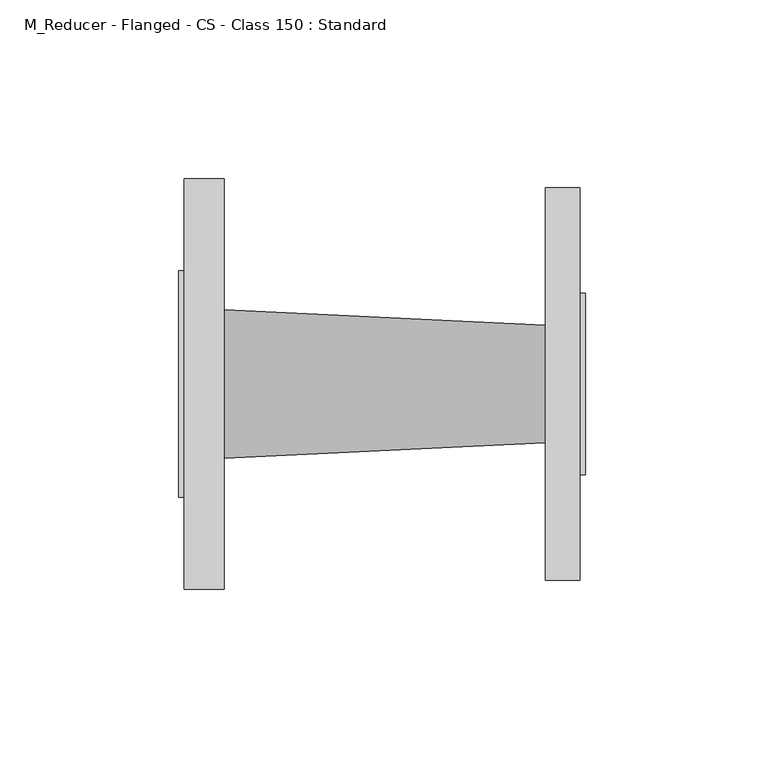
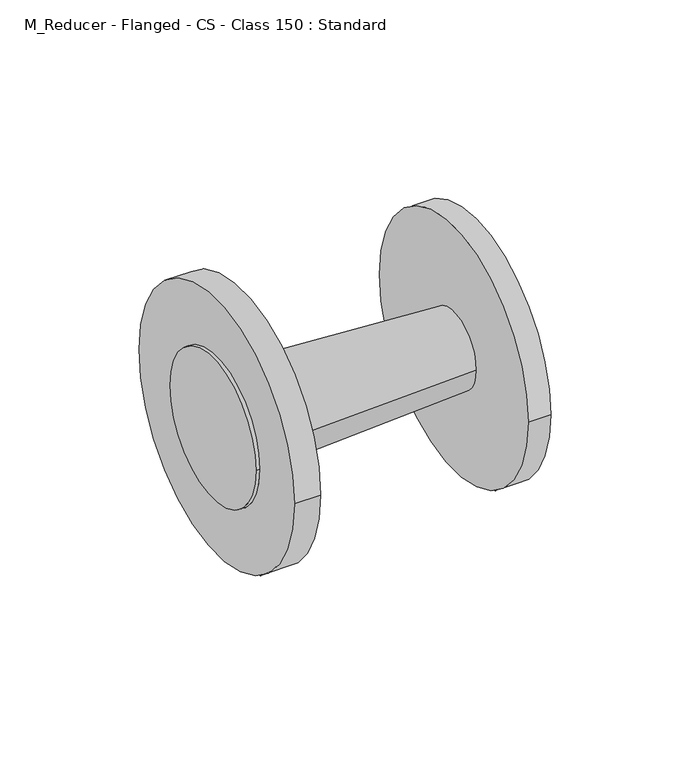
"""IFC4 building model written with IfcOpenShell, lengths in millimetres: pipe fitting geometry, M_Reducer - Flanged - CS - Class 150 : Standard."""

from ifc_helpers import new_model, si_unit, frame, origin, place, context, project, spatial, polyline, circle_curve, source, transform, mapped, element, save
from ifc_brep_helpers import plane_surface, cylinder_surface, revolved_surface, advanced_brep


def m_reducer_flanged_cs_class_150_standard_b6b67c23(model_context):
    return source(origin(), model_context, "Body", "AdvancedBrep", [
        advanced_brep(
        [(12.7875, -57.5, 0.0), (12.7875, 57.5, 0.0), (12.7875, 20.8, 0.0), (12.7875, -20.8, 0.0), (1.5875, -57.5, 0.0), (1.5875, 57.5, 0.0), (1.5875, -31.75, 0.0), (1.5875, 31.75, 0.0), (102.8125, 16.5, 0.0), (102.8125, -16.5, 0.0), (112.4125, -55.0, 0.0), (112.4125, 55.0, 0.0), (112.4125, 25.4, 0.0), (112.4125, -25.4, 0.0), (102.8125, -55.0, 0.0), (102.8125, 55.0, 0.0), (0.0, -31.75, 0.0), (0.0, 31.75, 0.0), (114.0, -25.4, 0.0), (114.0, 25.4, 0.0)],
        [
            (0, 1, circle_curve(frame((12.7875, 0.0, 0.0), z_axis=(1.0, 0.0, 0.0), x_axis=(0.0, 1.0, 0.0)), 57.5)),
            (1, 0, circle_curve(frame((12.7875, 0.0, 0.0), z_axis=(1.0, 0.0, 0.0), x_axis=(0.0, 1.0, 0.0)), 57.5)),
            (2, 3, circle_curve(frame((12.7875, 0.0, 0.0), z_axis=(-1.0, 0.0, 0.0), x_axis=(0.0, -1.0, 0.0)), 20.8)),
            (3, 2, circle_curve(frame((12.7875, 0.0, 0.0), z_axis=(-1.0, 0.0, 0.0), x_axis=(0.0, 1.0, 0.0)), 20.8)),
            (4, 5, circle_curve(frame((1.5875, 0.0, 0.0), z_axis=(-1.0, 0.0, 0.0), x_axis=(0.0, 1.0, 0.0)), 57.5)),
            (5, 4, circle_curve(frame((1.5875, 0.0, 0.0), z_axis=(-1.0, 0.0, 0.0), x_axis=(0.0, 1.0, 0.0)), 57.5)),
            (6, 7, circle_curve(frame((1.5875, 0.0, 0.0), z_axis=(1.0, 0.0, 0.0), x_axis=(0.0, 1.0, 0.0)), 31.75)),
            (7, 6, circle_curve(frame((1.5875, 0.0, 0.0), z_axis=(1.0, 0.0, 0.0), x_axis=(0.0, 1.0, 0.0)), 31.75)),
            (0, 4),
            (5, 1),
            (2, 8),
            (8, 9, circle_curve(frame((102.8125, 0.0, 0.0), z_axis=(-1.0, 0.0, 0.0), x_axis=(0.0, -1.0, 0.0)), 16.5)),
            (9, 3),
            (9, 8, circle_curve(frame((102.8125, 0.0, 0.0), z_axis=(-1.0, 0.0, 0.0), x_axis=(0.0, 1.0, 0.0)), 16.5)),
            (10, 11, circle_curve(frame((112.4125, 0.0, 0.0), z_axis=(1.0, 0.0, 0.0), x_axis=(0.0, 1.0, 0.0)), 55.0)),
            (11, 10, circle_curve(frame((112.4125, 0.0, 0.0), z_axis=(1.0, 0.0, 0.0), x_axis=(0.0, 1.0, 0.0)), 55.0)),
            (12, 13, circle_curve(frame((112.4125, 0.0, 0.0), z_axis=(-1.0, 0.0, 0.0), x_axis=(0.0, 1.0, 0.0)), 25.4)),
            (13, 12, circle_curve(frame((112.4125, 0.0, 0.0), z_axis=(-1.0, 0.0, 0.0), x_axis=(0.0, 1.0, 0.0)), 25.4)),
            (14, 15, circle_curve(frame((102.8125, 0.0, 0.0), z_axis=(-1.0, 0.0, 0.0), x_axis=(0.0, 1.0, 0.0)), 55.0)),
            (15, 14, circle_curve(frame((102.8125, 0.0, 0.0), z_axis=(-1.0, 0.0, 0.0), x_axis=(0.0, 1.0, 0.0)), 55.0)),
            (10, 14),
            (15, 11),
            (16, 17, circle_curve(frame((0.0, 0.0, 0.0), z_axis=(-1.0, 0.0, 0.0), x_axis=(0.0, 1.0, 0.0)), 31.75)),
            (17, 16, circle_curve(frame((0.0, 0.0, 0.0), z_axis=(-1.0, 0.0, 0.0), x_axis=(0.0, 1.0, 0.0)), 31.75)),
            (17, 7),
            (6, 16),
            (18, 19, circle_curve(frame((114.0, 0.0, 0.0), z_axis=(1.0, 0.0, 0.0), x_axis=(0.0, 1.0, 0.0)), 25.4)),
            (19, 18, circle_curve(frame((114.0, 0.0, 0.0), z_axis=(1.0, 0.0, 0.0), x_axis=(0.0, 1.0, 0.0)), 25.4)),
            (18, 13),
            (12, 19),
        ],
        [
            plane_surface(frame((12.7875, 57.5, 0.0), z_axis=(1.0, 0.0, 0.0), x_axis=(0.0, 0.0, 1.0))),
            plane_surface(frame((1.5875, 57.5, 0.0), z_axis=(-1.0, 0.0, 0.0), x_axis=(0.0, 0.0, -1.0))),
            cylinder_surface(frame((1.5875, 0.0, 0.0), z_axis=(1.0, 0.0, 0.0), x_axis=(0.0, 1.0, 0.0)), 57.5),
            revolved_surface(polyline([(102.8125, 16.499999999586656, 0.0), (12.787500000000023, 20.8, 0.0)]), (448.2572674, 0.0, 0.0), (-1.0, 0.0, 0.0)),
            plane_surface(frame((112.4125, 55.0, 0.0), z_axis=(1.0, 0.0, 0.0), x_axis=(0.0, 0.0, 1.0))),
            plane_surface(frame((102.8125, 55.0, 0.0), z_axis=(-1.0, 0.0, 0.0), x_axis=(0.0, 0.0, -1.0))),
            cylinder_surface(frame((102.8125, 0.0, 0.0), z_axis=(1.0, 0.0, 0.0), x_axis=(0.0, 1.0, 0.0)), 55.0),
            plane_surface(frame((0.0, 31.75, 0.0), z_axis=(-1.0, 0.0, 0.0), x_axis=(0.0, 0.0, -1.0))),
            cylinder_surface(frame((0.0, 0.0, 0.0), z_axis=(1.0, 0.0, 0.0), x_axis=(0.0, 1.0, 0.0)), 31.75),
            plane_surface(frame((114.0, 25.4, 0.0), z_axis=(1.0, 0.0, 0.0), x_axis=(0.0, 0.0, 1.0))),
            cylinder_surface(frame((112.4125, 0.0, 0.0), z_axis=(1.0, 0.0, 0.0), x_axis=(0.0, 1.0, 0.0)), 25.4),
        ],
        [
            (0, [[1, 2], [3, 4]]),
            (1, [[5, 6], [7, 8]]),
            (2, [[-1, 9, -6, 10]]),
            (2, [[-2, -10, -5, -9]]),
            (3, [[11, 12, 13, -3]]),
            (3, [[-11, -4, -13, 14]]),
            (4, [[15, 16], [17, 18]]),
            (5, [[19, 20], [-12, -14]]),
            (6, [[-15, 21, -20, 22]]),
            (6, [[-16, -22, -19, -21]]),
            (7, [[23, 24]]),
            (8, [[-24, 25, -7, 26]]),
            (8, [[-23, -26, -8, -25]]),
            (9, [[27, 28]]),
            (10, [[-27, 29, -17, 30]]),
            (10, [[-28, -30, -18, -29]]),
        ],
    ),
    ])


if __name__ == "__main__":
    model = new_model("IFC4")
    model_context = context("Model", 3, world=origin())
    ifc_project = project(units=[si_unit("LENGTHUNIT", "METRE", prefix="MILLI")], contexts=[model_context])
    site = spatial("IfcSite", under=ifc_project)
    building = spatial("IfcBuilding", under=site)
    placement = place(None, origin())
    m_reducer_flanged_cs_class_150_standard_shape = m_reducer_flanged_cs_class_150_standard_b6b67c23(model_context)
    element("IfcPipeFitting", 1, ObjectType="M_Reducer - Flanged - CS - Class 150 : Standard", at=placement, inside=building, context=model_context, shape_type="MappedRepresentation", body=[
        mapped(m_reducer_flanged_cs_class_150_standard_shape, transform((0.0, 0.0, 0.0), x_axis=(1.0, 0.0, 0.0), y_axis=(0.0, 1.0, 0.0), z_axis=(0.0, 0.0, 1.0))),
    ])
    save(model, "model.ifc")
